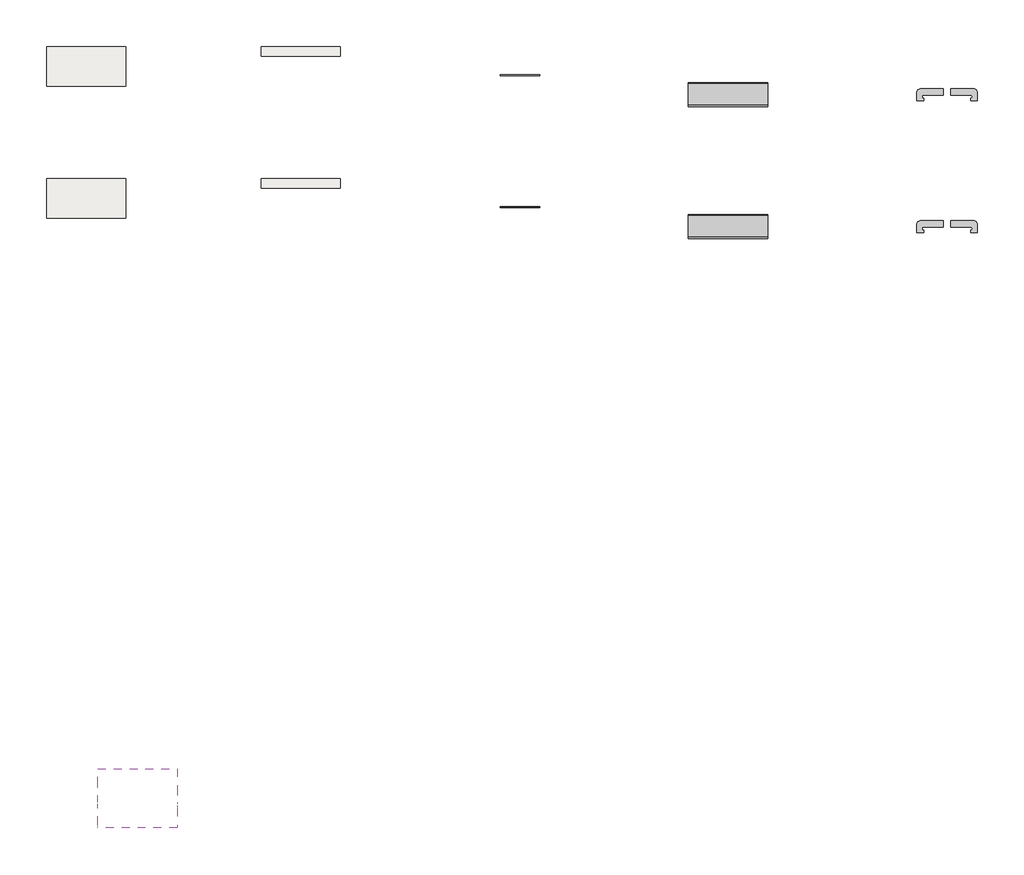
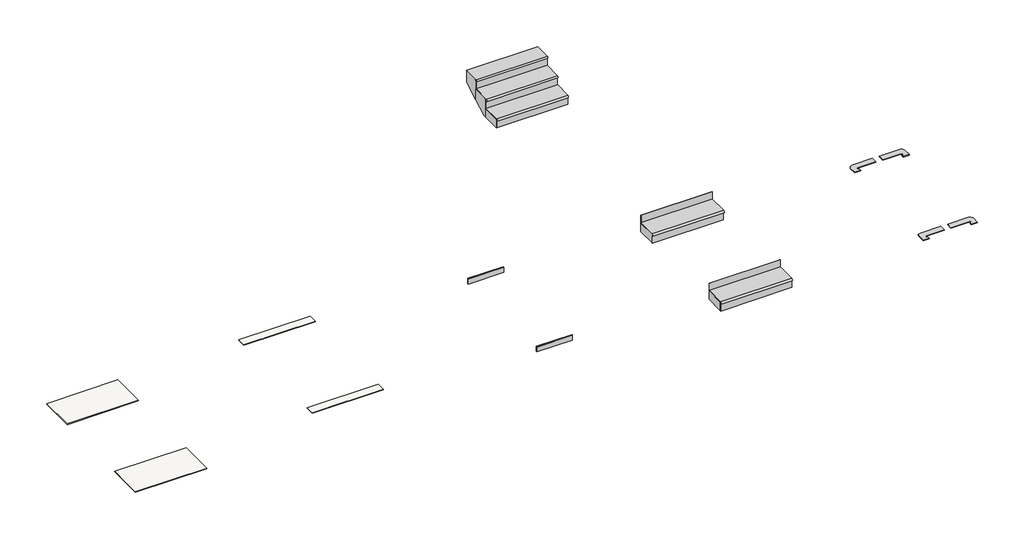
# One storey: 6 proxies, 4 slabs, 3 stair flights, 2 walls.
"""IFC4 building model written with IfcOpenShell, lengths in millimetres."""

from ifc_helpers import new_model, si_unit, point, frame, frame_2d, origin, place, context, project, spatial, polyline, circle_curve, trimmed, segment, composite_curve, outline, extrude, faceted_brep, transform, mapped, element, save
from components import generic_models_c79c0e69, generic_models_9a913470

model = new_model("IFC4")

# Units and contexts
model_context = context("Model", 3, world=origin())
ifc_project = project(units=[si_unit("LENGTHUNIT", "METRE", prefix="MILLI")], contexts=[model_context])

# Site, building, storey
site = spatial("IfcSite", under=ifc_project)
building = spatial("IfcBuilding", under=site)
storey = spatial("IfcBuildingStorey", under=building, Name="EXAGRES_Serie OROBICO_Catálogo", Elevation=22000.0)

# Proxies
placement = place(None, origin())
element("IfcBuildingElementProxy", 1, Name="Exagres_Orobico_Taupe_Rodapie_9x60", ObjectType="Exagres_Orobico_Taupe_Rodapie_9x60", at=placement, inside=storey, context=model_context, shape_type="SweptSolid", body=[
    extrude(outline(polyline([(353.9826442, 22090.0), (353.9826442, 22000.0), (338.9826442, 22000.0), (338.9826442, 22085.0), (343.9826442, 22090.0), (353.9826442, 22090.0)])), frame((5639.8218898, 0.0, 0.0), z_axis=(1.0, 0.0, 0.0), x_axis=(0.0, 1.0, 0.0)), (0.0, 0.0, 1.0), 600.0),
])
element("IfcBuildingElementProxy", 2, Name="Exagres_Orobico_Gris_Rodapie_9x60", ObjectType="Exagres_Orobico_Gris_Rodapie_9x60", at=placement, inside=storey, context=model_context, shape_type="SweptSolid", body=[
    extrude(outline(polyline([(-1646.0173558, 22090.0), (-1646.0173558, 22000.0), (-1661.0173558, 22000.0), (-1661.0173558, 22085.0), (-1656.0173558, 22090.0), (-1646.0173558, 22090.0)])), frame((5639.8218898, 0.0, 0.0), z_axis=(1.0, 0.0, 0.0), x_axis=(0.0, 1.0, 0.0)), (0.0, 0.0, 1.0), 600.0),
])
generic_models_shape = generic_models_c79c0e69(model_context)
element("IfcBuildingElementProxy", 3, Name="EXAGRES - Zanquin ML 39.5x17.5 : Exagres_Orobico_Taupe_Zanquin_ML_Izq", ObjectType="EXAGRES - Zanquin ML 39.5x17.5 : Exagres_Orobico_Taupe_Zanquin_ML_Izq", at=placement, inside=storey, context=model_context, shape_type="MappedRepresentation", body=[
    mapped(generic_models_shape, transform((12052.0707994, 44.4826442, 22000.0), x_axis=(1.0, 0.0, 0.0), y_axis=(0.0, 1.0, 0.0), z_axis=(0.0, 0.0, 1.0))),
])
element("IfcBuildingElementProxy", 4, Name="EXAGRES - Zanquin ML 39.5x17.5 : Exagres_Orobico_Gris_Zanquin_ML_Izq", ObjectType="EXAGRES - Zanquin ML 39.5x17.5 : Exagres_Orobico_Gris_Zanquin_ML_Izq", at=placement, inside=storey, context=model_context, shape_type="MappedRepresentation", body=[
    mapped(generic_models_shape, transform((12052.0707994, -1955.5173558, 22000.0), x_axis=(1.0, 0.0, 0.0), y_axis=(0.0, 1.0, 0.0), z_axis=(0.0, 0.0, 1.0))),
])
generic_models_2_shape = generic_models_9a913470(model_context)
element("IfcBuildingElementProxy", 5, Name="EXAGRES - Zanquin ML 39.5x17.5 : Exagres_Orobico_Taupe_Zanquin_ML_Der", ObjectType="EXAGRES - Zanquin ML 39.5x17.5 : Exagres_Orobico_Taupe_Zanquin_ML_Der", at=placement, inside=storey, context=model_context, shape_type="MappedRepresentation", body=[
    mapped(generic_models_2_shape, transform((12772.0707994, 44.4826442, 22000.0), x_axis=(-1.0, 0.0, 0.0), y_axis=(0.0, -1.0, 0.0), z_axis=(0.0, 0.0, 1.0))),
])
element("IfcBuildingElementProxy", 6, Name="EXAGRES - Zanquin ML 39.5x17.5 : Exagres_Orobico_Gris_Zanquin_ML_Der", ObjectType="EXAGRES - Zanquin ML 39.5x17.5 : Exagres_Orobico_Gris_Zanquin_ML_Der", at=placement, inside=storey, context=model_context, shape_type="MappedRepresentation", body=[
    mapped(generic_models_2_shape, transform((12772.0707994, -1955.5173558, 22000.0), x_axis=(-1.0, 0.0, 0.0), y_axis=(0.0, -1.0, 0.0), z_axis=(0.0, 0.0, 1.0))),
])

# Slabs
element("IfcSlab", 7, ObjectType="Exagres_Orobico_Taupe_Base_14,5x120_C1_Rect", at=placement, inside=storey, context=model_context, shape_type="SweptSolid", body=[
    extrude(outline(polyline([(3221.8218898, 784.4826442), (3221.8218898, 637.4826442), (2019.8218898, 637.4826442), (2019.8218898, 784.4826442), (3221.8218898, 784.4826442)])), frame((0.0, 0.0, 21990.0), z_axis=(0.0, 0.0, 1.0), x_axis=(1.0, 0.0, 0.0)), (0.0, 0.0, 1.0), 10.0),
])
element("IfcSlab", 8, ObjectType="Exagres_Orobico_Gris_Base_14,5x120_C1_Rect", at=placement, inside=storey, context=model_context, shape_type="SweptSolid", body=[
    extrude(outline(polyline([(3221.8218898, -1215.5173558), (3221.8218898, -1362.5173558), (2019.8218898, -1362.5173558), (2019.8218898, -1215.5173558), (3221.8218898, -1215.5173558)])), frame((0.0, 0.0, 21990.0), z_axis=(0.0, 0.0, 1.0), x_axis=(1.0, 0.0, 0.0)), (0.0, 0.0, 1.0), 10.0),
])
element("IfcSlab", 9, ObjectType="Exagres_Orobico_Taupe_Base_60x120_C1_Rect", at=placement, inside=storey, context=model_context, shape_type="SweptSolid", body=[
    extrude(outline(polyline([(-28.1781102, 784.4826442), (-28.1781102, 182.4826442), (-1230.1781102, 182.4826442), (-1230.1781102, 784.4826442), (-28.1781102, 784.4826442)])), frame((0.0, 0.0, 21990.0), z_axis=(0.0, 0.0, 1.0), x_axis=(1.0, 0.0, 0.0)), (0.0, 0.0, 1.0), 10.0),
])
element("IfcSlab", 10, ObjectType="Exagres_Orobico_Gris_Base_60x120_C1_Rect", at=placement, inside=storey, context=model_context, shape_type="SweptSolid", body=[
    extrude(outline(polyline([(-28.1781102, -1215.5173558), (-28.1781102, -1817.5173558), (-1230.1781102, -1817.5173558), (-1230.1781102, -1215.5173558), (-28.1781102, -1215.5173558)])), frame((0.0, 0.0, 21990.0), z_axis=(0.0, 0.0, 1.0), x_axis=(1.0, 0.0, 0.0)), (0.0, 0.0, 1.0), 10.0),
])

# Stair flights
element("IfcStairFlight", 11, ObjectType="EXAGRES_ML - Orobico Taupe C1", at=placement, inside=storey, context=model_context, shape_type="SweptSolid", body=[
    extrude(outline(polyline([(8493.0707994, -93.5173558), (8493.0707994, 236.4826442), (9693.0707994, 236.4826442), (9693.0707994, -93.5173558), (8493.0707994, -93.5173558)])), frame((0.0, 0.0, 22000.0), z_axis=(0.0, 0.0, 1.0), x_axis=(1.0, 0.0, 0.0)), (0.0, 0.0, 1.0), 151.6666667),
    extrude(outline(composite_curve([segment(polyline([(-107.5173558, 22166.6666667), (236.4826442, 22166.6666667), (236.4826442, 22151.6666667), (-79.6078069, 22151.6666667), (-79.6078069, 22151.1666667), (-83.5173558, 22151.1666667), (-83.5173558, 22151.6666667), (-85.1078069, 22151.6666667), (-85.1078069, 22152.1666667), (-87.5173558, 22152.1666667), (-87.5173558, 22151.1666667), (-94.5173558, 22151.1666667), (-94.5173558, 22144.1666667), (-95.5173558, 22144.1666667), (-95.5173558, 22138.1666667), (-94.5173558, 22138.1666667), (-94.5173558, 22126.6666667), (-107.5173558, 22126.6666667)]), True, "CONTINUOUS"), segment(trimmed(circle_curve(frame_2d((-107.5173558, 22146.6666667)), 20.0), [point((-107.5173558, 22126.6666667))], [point((-107.5173558, 22166.6666667))], False, "CARTESIAN"), True, "CONTINUOUS")], self_intersect=False)), frame((8493.0707994, 0.0, 0.0), z_axis=(1.0, 0.0, 0.0), x_axis=(0.0, 1.0, 0.0)), (0.0, 0.0, 1.0), 1200.0),
    extrude(outline(polyline([(9693.0707994, -93.5173558), (9693.0707994, -103.5173558), (8493.0707994, -103.5173558), (8493.0707994, -93.5173558), (9693.0707994, -93.5173558)])), frame((0.0, 0.0, 22000.0), z_axis=(0.0, 0.0, 1.0), x_axis=(1.0, 0.0, 0.0)), (0.0, 0.0, 1.0), 126.6666667),
    extrude(outline(polyline([(9693.0707994, 236.4826442), (9693.0707994, 226.4826442), (8493.0707994, 226.4826442), (8493.0707994, 236.4826442), (9693.0707994, 236.4826442)])), frame((0.0, 0.0, 22166.6666667), z_axis=(0.0, 0.0, 1.0), x_axis=(1.0, 0.0, 0.0)), (0.0, 0.0, 1.0), 126.6666667),
])
element("IfcStairFlight", 12, ObjectType="EXAGRES_ML - Imperial Arian C1", at=placement, inside=storey, context=model_context, shape_type="SolidModel", body=[
    faceted_brep([(-451.9029047, -10727.6587674, 33972.3684211), (-451.9029047, -11027.6587674, 33972.3684211), (748.0970953, -11027.6587674, 33972.3684211), (748.0970953, -10727.6587674, 33972.3684211), (-451.9029047, -10727.6587674, 33820.0), (-451.9029047, -11027.6587674, 33820.0), (748.0970953, -11027.6587674, 33820.0), (748.0970953, -10727.6587674, 33820.0), (-451.9029047, -10427.6587674, 34139.7368421), (-451.9029047, -10727.6587674, 34139.7368421), (748.0970953, -10727.6587674, 34139.7368421), (748.0970953, -10427.6587674, 34139.7368421), (-451.9029047, -10427.6587674, 33956.5213642), (-451.9029047, -10672.3668729, 33820.0), (748.0970953, -10672.3668729, 33820.0), (748.0970953, -10427.6587674, 33956.5213642), (-451.9029047, -10161.6587674, 34104.9213642), (748.0970953, -10161.6587674, 34104.9213642), (-451.9029047, -10161.6587674, 34307.1052632), (-451.9029047, -10427.6587674, 34307.1052632), (748.0970953, -10427.6587674, 34307.1052632), (748.0970953, -10161.6587674, 34307.1052632)], [[[0, 1, 2, 3]], [[1, 0, 4, 5]], [[2, 1, 5, 6]], [[3, 2, 6, 7]], [[8, 9, 10, 11]], [[4, 0, 9, 8, 12, 13]], [[0, 3, 10, 9]], [[3, 7, 14, 15, 11, 10]], [[5, 4, 13, 14, 7, 6]], [[14, 13, 12, 16, 17, 15]], [[18, 19, 20, 21]], [[19, 18, 16, 12, 8]], [[8, 11, 20, 19]], [[21, 20, 11, 15, 17]], [[18, 21, 17, 16]]]),
    extrude(outline(composite_curve([segment(polyline([(-11041.6587674, 33987.3684211), (-10727.6587674, 33987.3684211), (-10727.6587674, 33972.3684211), (-11013.7492185, 33972.3684211), (-11013.7492185, 33971.8684211), (-11017.6587674, 33971.8684211), (-11017.6587674, 33972.3684211), (-11019.2492185, 33972.3684211), (-11019.2492185, 33972.8684211), (-11021.6587674, 33972.8684211), (-11021.6587674, 33971.8684211), (-11028.6587674, 33971.8684211), (-11028.6587674, 33964.8684211), (-11029.6587674, 33964.8684211), (-11029.6587674, 33958.8684211), (-11028.6587674, 33958.8684211), (-11028.6587674, 33947.3684211), (-11041.6587674, 33947.3684211)]), True, "CONTINUOUS"), segment(trimmed(circle_curve(frame_2d((-11041.6587674, 33967.3684211)), 20.0), [point((-11041.6587674, 33947.3684211))], [point((-11041.6587674, 33987.3684211))], False, "CARTESIAN"), True, "CONTINUOUS")], self_intersect=False)), frame((-451.9029047, 0.0, 0.0), z_axis=(1.0, 0.0, 0.0), x_axis=(0.0, 1.0, 0.0)), (0.0, 0.0, 1.0), 1200.0),
    extrude(outline(polyline([(748.0970953, -11027.6587674), (748.0970953, -11037.6587674), (-451.9029047, -11037.6587674), (-451.9029047, -11027.6587674), (748.0970953, -11027.6587674)])), frame((0.0, 0.0, 33820.0), z_axis=(0.0, 0.0, 1.0), x_axis=(1.0, 0.0, 0.0)), (0.0, 0.0, 1.0), 127.3684211),
    extrude(outline(polyline([(748.0970953, -10727.6587674), (748.0970953, -10737.6587674), (-451.9029047, -10737.6587674), (-451.9029047, -10727.6587674), (748.0970953, -10727.6587674)])), frame((0.0, 0.0, 33987.3684211), z_axis=(0.0, 0.0, 1.0), x_axis=(1.0, 0.0, 0.0)), (0.0, 0.0, 1.0), 127.3684211),
    extrude(outline(composite_curve([segment(polyline([(-10741.6587674, 34154.7368421), (-10427.6587674, 34154.7368421), (-10427.6587674, 34139.7368421), (-10713.7492185, 34139.7368421), (-10713.7492185, 34139.2368421), (-10717.6587674, 34139.2368421), (-10717.6587674, 34139.7368421), (-10719.2492185, 34139.7368421), (-10719.2492185, 34140.2368421), (-10721.6587674, 34140.2368421), (-10721.6587674, 34139.2368421), (-10728.6587674, 34139.2368421), (-10728.6587674, 34132.2368421), (-10729.6587674, 34132.2368421), (-10729.6587674, 34126.2368421), (-10728.6587674, 34126.2368421), (-10728.6587674, 34114.7368421), (-10741.6587674, 34114.7368421)]), True, "CONTINUOUS"), segment(trimmed(circle_curve(frame_2d((-10741.6587674, 34134.7368421)), 20.0), [point((-10741.6587674, 34114.7368421))], [point((-10741.6587674, 34154.7368421))], False, "CARTESIAN"), True, "CONTINUOUS")], self_intersect=False)), frame((-451.9029047, 0.0, 0.0), z_axis=(1.0, 0.0, 0.0), x_axis=(0.0, 1.0, 0.0)), (0.0, 0.0, 1.0), 1200.0),
    extrude(outline(polyline([(748.0970953, -10427.6587674), (748.0970953, -10437.6587674), (-451.9029047, -10437.6587674), (-451.9029047, -10427.6587674), (748.0970953, -10427.6587674)])), frame((0.0, 0.0, 34154.7368421), z_axis=(0.0, 0.0, 1.0), x_axis=(1.0, 0.0, 0.0)), (0.0, 0.0, 1.0), 127.3684211),
    extrude(outline(composite_curve([segment(polyline([(-10441.6587674, 34322.1052632), (-10161.6587674, 34322.1052632), (-10161.6587674, 34307.1052632), (-10413.7492185, 34307.1052632), (-10413.7492185, 34306.6052632), (-10417.6587674, 34306.6052632), (-10417.6587674, 34307.1052632), (-10419.2492185, 34307.1052632), (-10419.2492185, 34307.6052632), (-10421.6587674, 34307.6052632), (-10421.6587674, 34306.6052632), (-10428.6587674, 34306.6052632), (-10428.6587674, 34299.6052632), (-10429.6587674, 34299.6052632), (-10429.6587674, 34293.6052632), (-10428.6587674, 34293.6052632), (-10428.6587674, 34282.1052632), (-10441.6587674, 34282.1052632)]), True, "CONTINUOUS"), segment(trimmed(circle_curve(frame_2d((-10441.6587674, 34302.1052632)), 20.0), [point((-10441.6587674, 34282.1052632))], [point((-10441.6587674, 34322.1052632))], False, "CARTESIAN"), True, "CONTINUOUS")], self_intersect=False)), frame((-451.9029047, 0.0, 0.0), z_axis=(1.0, 0.0, 0.0), x_axis=(0.0, 1.0, 0.0)), (0.0, 0.0, 1.0), 1200.0),
])
element("IfcStairFlight", 13, ObjectType="EXAGRES_ML - Imperial Arian C1", at=placement, inside=storey, context=model_context, shape_type="SweptSolid", body=[
    extrude(outline(polyline([(8493.0707994, -2093.5173558), (8493.0707994, -1763.5173558), (9693.0707994, -1763.5173558), (9693.0707994, -2093.5173558), (8493.0707994, -2093.5173558)])), frame((0.0, 0.0, 22000.0), z_axis=(0.0, 0.0, 1.0), x_axis=(1.0, 0.0, 0.0)), (0.0, 0.0, 1.0), 151.6666667),
    extrude(outline(composite_curve([segment(polyline([(-2107.5173558, 22166.6666667), (-1763.5173558, 22166.6666667), (-1763.5173558, 22151.6666667), (-2079.6078069, 22151.6666667), (-2079.6078069, 22151.1666667), (-2083.5173558, 22151.1666667), (-2083.5173558, 22151.6666667), (-2085.1078069, 22151.6666667), (-2085.1078069, 22152.1666667), (-2087.5173558, 22152.1666667), (-2087.5173558, 22151.1666667), (-2094.5173558, 22151.1666667), (-2094.5173558, 22144.1666667), (-2095.5173558, 22144.1666667), (-2095.5173558, 22138.1666667), (-2094.5173558, 22138.1666667), (-2094.5173558, 22126.6666667), (-2107.5173558, 22126.6666667)]), True, "CONTINUOUS"), segment(trimmed(circle_curve(frame_2d((-2107.5173558, 22146.6666667)), 20.0), [point((-2107.5173558, 22126.6666667))], [point((-2107.5173558, 22166.6666667))], False, "CARTESIAN"), True, "CONTINUOUS")], self_intersect=False)), frame((8493.0707994, 0.0, 0.0), z_axis=(1.0, 0.0, 0.0), x_axis=(0.0, 1.0, 0.0)), (0.0, 0.0, 1.0), 1200.0),
    extrude(outline(polyline([(9693.0707994, -2093.5173558), (9693.0707994, -2103.5173558), (8493.0707994, -2103.5173558), (8493.0707994, -2093.5173558), (9693.0707994, -2093.5173558)])), frame((0.0, 0.0, 22000.0), z_axis=(0.0, 0.0, 1.0), x_axis=(1.0, 0.0, 0.0)), (0.0, 0.0, 1.0), 126.6666667),
    extrude(outline(polyline([(9693.0707994, -1763.5173558), (9693.0707994, -1773.5173558), (8493.0707994, -1773.5173558), (8493.0707994, -1763.5173558), (9693.0707994, -1763.5173558)])), frame((0.0, 0.0, 22166.6666667), z_axis=(0.0, 0.0, 1.0), x_axis=(1.0, 0.0, 0.0)), (0.0, 0.0, 1.0), 126.6666667),
])

# Walls
element("IfcWall", 14, ObjectType="Muro básico:muro", at=placement, inside=storey, context=model_context, shape_type="SweptSolid", body=[
    extrude(outline(polyline([(6239.8218898, 353.9826442), (5639.8218898, 353.9826442), (5639.8218898, 354.9826442), (6239.8218898, 354.9826442), (6239.8218898, 353.9826442)])), frame((0.0, 0.0, 22000.0), z_axis=(0.0, 0.0, 1.0), x_axis=(1.0, 0.0, 0.0)), (0.0, 0.0, 1.0), 75.0),
])
element("IfcWall", 15, ObjectType="Muro básico:muro", at=placement, inside=storey, context=model_context, shape_type="SweptSolid", body=[
    extrude(outline(polyline([(6239.8218898, -1646.0173558), (5639.8218898, -1646.0173558), (5639.8218898, -1645.0173558), (6239.8218898, -1645.0173558), (6239.8218898, -1646.0173558)])), frame((0.0, 0.0, 22000.0), z_axis=(0.0, 0.0, 1.0), x_axis=(1.0, 0.0, 0.0)), (0.0, 0.0, 1.0), 75.0),
])

save(model, "model.ifc")
